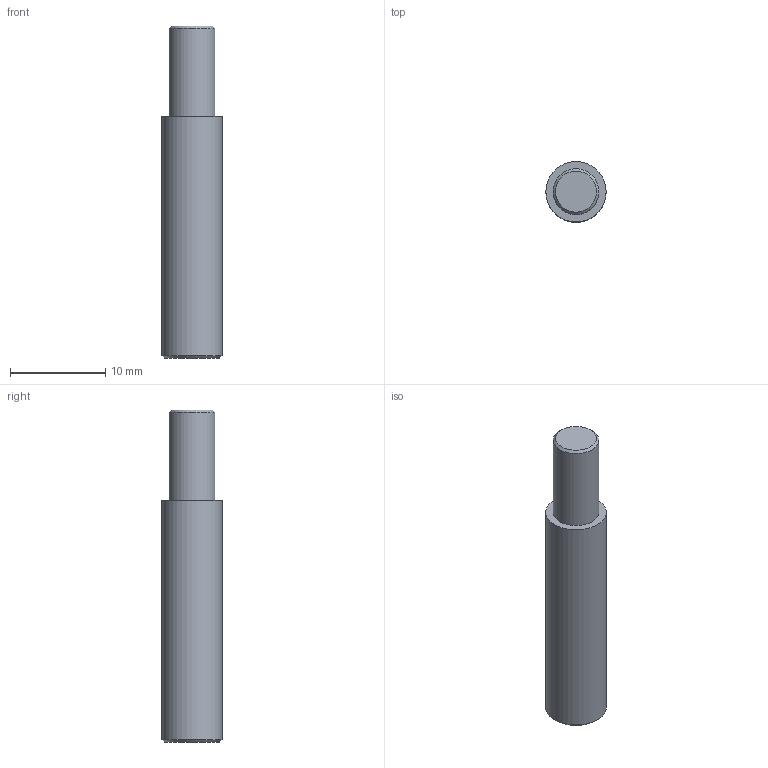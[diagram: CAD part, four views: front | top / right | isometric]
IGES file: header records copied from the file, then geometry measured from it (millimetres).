
Global section: file name: No Iges File Name specified; native system: AutoDesk Inventor R5.0; preprocessor: AutoDesk Inventor Iges Exporter R5.0; author: No Author specified; organization: No Organization specified; date: 20061105.203449; units: inch
Bounding box: 6.35 x 6.35 x 34.92 mm (x, y, z)
Surface area: 709.1 mm2 (no closed solid volume)
Topology: 0 solids, 0 shells, 7 faces, 16 edges, 12 vertices
Faces by surface type: revolution 4, plane 3
